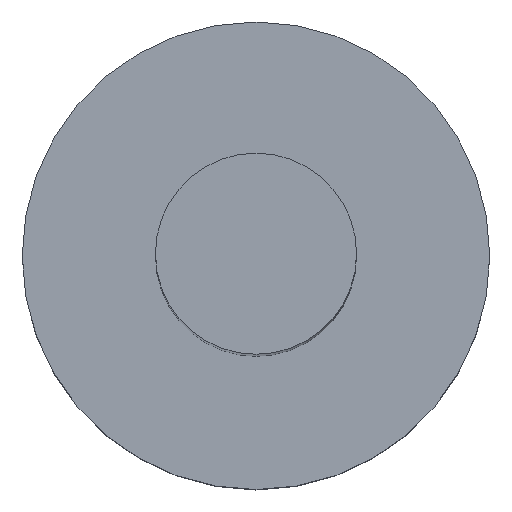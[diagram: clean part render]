
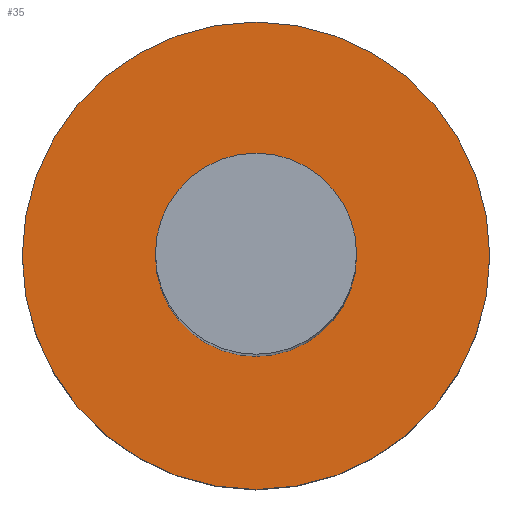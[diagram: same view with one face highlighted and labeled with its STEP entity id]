
A CAD part, top view. The second image highlights one B-rep face of the part: STEP entity #35.
In plain terms, the highlighted planar face has unit normal (0, 0, 1) as drawn and (0, 0, -1) by its records, which use the part's own axes.
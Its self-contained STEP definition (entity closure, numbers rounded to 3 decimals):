
#35 = ADVANCED_FACE('',(#36,#72),#49,.F.);
#36 = FACE_BOUND('',#37,.T.);
#37 = EDGE_LOOP('',(#38));
#38 = ORIENTED_EDGE('',*,*,#39,.F.);
#39 = EDGE_CURVE('',#40,#40,#42,.T.);
#40 = VERTEX_POINT('',#41);
#41 = CARTESIAN_POINT('',(2.34,0.,0.));
#42 = SURFACE_CURVE('',#43,(#48,#60),.PCURVE_S1.);
#43 = CIRCLE('',#44,2.34);
#44 = AXIS2_PLACEMENT_3D('',#45,#46,#47);
#45 = CARTESIAN_POINT('',(0.,0.,0.));
#46 = DIRECTION('',(0.,0.,1.));
#47 = DIRECTION('',(1.,0.,-0.));
#48 = PCURVE('',#49,#54);
#49 = PLANE('',#50);
#50 = AXIS2_PLACEMENT_3D('',#51,#52,#53);
#51 = CARTESIAN_POINT('',(0.,0.,0.));
#52 = DIRECTION('',(0.,0.,1.));
#53 = DIRECTION('',(1.,0.,-0.));
#54 = DEFINITIONAL_REPRESENTATION('',(#55),#59);
#55 = CIRCLE('',#56,2.34);
#56 = AXIS2_PLACEMENT_2D('',#57,#58);
#57 = CARTESIAN_POINT('',(0.,0.));
#58 = DIRECTION('',(1.,0.));
#59 = ( GEOMETRIC_REPRESENTATION_CONTEXT(2) 
PARAMETRIC_REPRESENTATION_CONTEXT() REPRESENTATION_CONTEXT('2D SPACE',''
  ) );
#60 = PCURVE('',#61,#66);
#61 = CYLINDRICAL_SURFACE('',#62,2.34);
#62 = AXIS2_PLACEMENT_3D('',#63,#64,#65);
#63 = CARTESIAN_POINT('',(0.,0.,1.25));
#64 = DIRECTION('',(0.,0.,1.));
#65 = DIRECTION('',(1.,0.,-0.));
#66 = DEFINITIONAL_REPRESENTATION('',(#67),#71);
#67 = LINE('',#68,#69);
#68 = CARTESIAN_POINT('',(0.,-1.25));
#69 = VECTOR('',#70,1.);
#70 = DIRECTION('',(1.,0.));
#71 = ( GEOMETRIC_REPRESENTATION_CONTEXT(2) 
PARAMETRIC_REPRESENTATION_CONTEXT() REPRESENTATION_CONTEXT('2D SPACE',''
  ) );
#72 = FACE_BOUND('',#73,.T.);
#73 = EDGE_LOOP('',(#74));
#74 = ORIENTED_EDGE('',*,*,#75,.T.);
#75 = EDGE_CURVE('',#76,#76,#78,.T.);
#76 = VERTEX_POINT('',#77);
#77 = CARTESIAN_POINT('',(1.006,0.,0.));
#78 = SURFACE_CURVE('',#79,(#84,#91),.PCURVE_S1.);
#79 = CIRCLE('',#80,1.006);
#80 = AXIS2_PLACEMENT_3D('',#81,#82,#83);
#81 = CARTESIAN_POINT('',(0.,0.,0.));
#82 = DIRECTION('',(0.,0.,1.));
#83 = DIRECTION('',(1.,0.,-0.));
#84 = PCURVE('',#49,#85);
#85 = DEFINITIONAL_REPRESENTATION('',(#86),#90);
#86 = CIRCLE('',#87,1.006);
#87 = AXIS2_PLACEMENT_2D('',#88,#89);
#88 = CARTESIAN_POINT('',(0.,0.));
#89 = DIRECTION('',(1.,0.));
#90 = ( GEOMETRIC_REPRESENTATION_CONTEXT(2) 
PARAMETRIC_REPRESENTATION_CONTEXT() REPRESENTATION_CONTEXT('2D SPACE',''
  ) );
#91 = PCURVE('',#92,#97);
#92 = CYLINDRICAL_SURFACE('',#93,1.006);
#93 = AXIS2_PLACEMENT_3D('',#94,#95,#96);
#94 = CARTESIAN_POINT('',(0.,0.,-12.));
#95 = DIRECTION('',(0.,0.,1.));
#96 = DIRECTION('',(1.,0.,-0.));
#97 = DEFINITIONAL_REPRESENTATION('',(#98),#102);
#98 = LINE('',#99,#100);
#99 = CARTESIAN_POINT('',(0.,12.));
#100 = VECTOR('',#101,1.);
#101 = DIRECTION('',(1.,0.));
#102 = ( GEOMETRIC_REPRESENTATION_CONTEXT(2) 
PARAMETRIC_REPRESENTATION_CONTEXT() REPRESENTATION_CONTEXT('2D SPACE',''
  ) );
